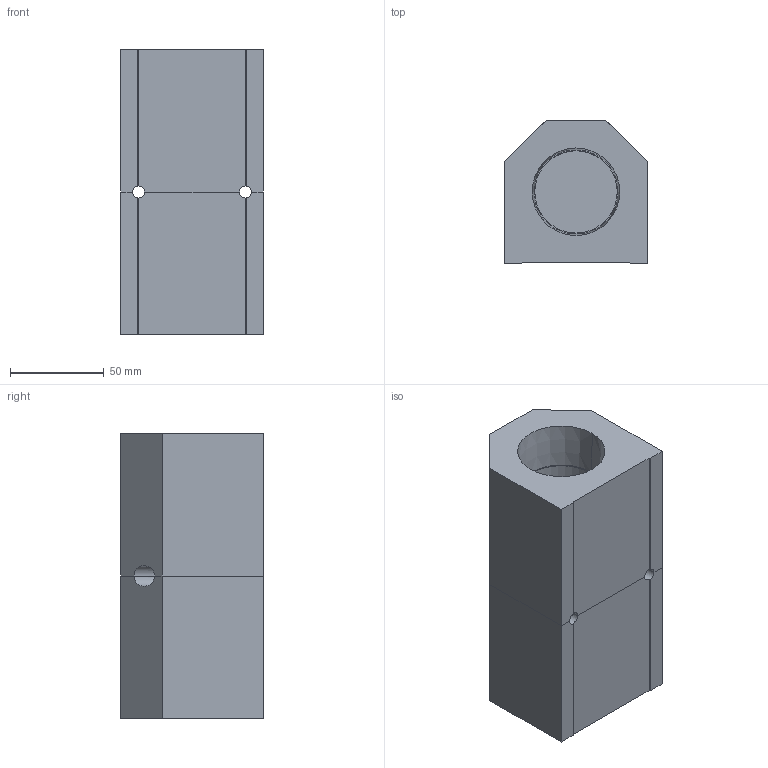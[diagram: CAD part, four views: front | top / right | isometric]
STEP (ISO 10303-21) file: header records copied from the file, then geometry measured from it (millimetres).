
FILE_DESCRIPTION (( 'STEP AP214' ), '1' );
FILE_NAME ('ALM2C-N4N24-152RB.step', '2022-02-07T07:51:59', ( '' ), ( '' ), 'SwSTEP 2.0', 'SolidWorks 2020', '' );
FILE_SCHEMA (( 'AUTOMOTIVE_DESIGN' ));
Length unit declared in the file: millimetre
Products named in the file (1): ALM2C-N4N24-152RB
Bounding box: 76.2 x 76.2 x 152 mm (x, y, z)
Volume: 559099.9 mm3; surface area: 86098.7 mm2
Topology: 2 solids, 2 shells, 311 faces, 820 edges, 546 vertices
Faces by surface type: plane 233, bspline 54, cylinder 16, cone 8
Entity records: 16124 total; most frequent: CARTESIAN_POINT 5946, ORIENTED_EDGE 1640, DIRECTION 1254, EDGE_CURVE 820, LINE 658, VECTOR 658, VERTEX_POINT 546, EDGE_LOOP 348
